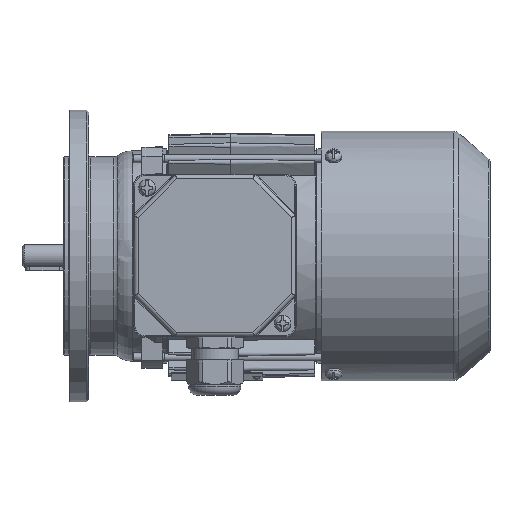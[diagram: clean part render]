
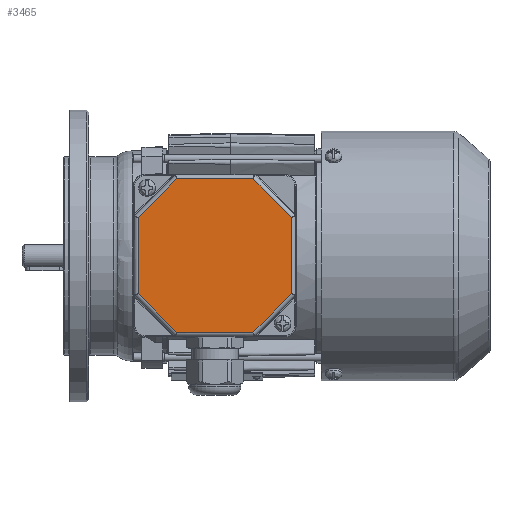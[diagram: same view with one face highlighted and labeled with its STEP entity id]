
A CAD part, top view. The second image highlights one B-rep face of the part: STEP entity #3465.
In plain terms, the highlighted planar face has unit normal (0, 0, 1).
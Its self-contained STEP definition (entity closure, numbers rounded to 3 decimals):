
#3465 = ADVANCED_FACE( '', ( #7399 ), #7400, .T. );
#7399 = FACE_OUTER_BOUND( '', #16544, .T. );
#7400 = PLANE( '', #16545 );
#16544 = EDGE_LOOP( '', ( #29645, #29646, #29647, #29648, #29649, #29650, #29651, #29652 ) );
#16545 = AXIS2_PLACEMENT_3D( '', #29653, #29654, #29655 );
#29645 = ORIENTED_EDGE( '', *, *, #41485, .T. );
#29646 = ORIENTED_EDGE( '', *, *, #41486, .T. );
#29647 = ORIENTED_EDGE( '', *, *, #41487, .T. );
#29648 = ORIENTED_EDGE( '', *, *, #39949, .T. );
#29649 = ORIENTED_EDGE( '', *, *, #41488, .T. );
#29650 = ORIENTED_EDGE( '', *, *, #41438, .T. );
#29651 = ORIENTED_EDGE( '', *, *, #41489, .T. );
#29652 = ORIENTED_EDGE( '', *, *, #41490, .T. );
#29653 = CARTESIAN_POINT( '', ( -39., 39., 12. ) );
#29654 = DIRECTION( '', ( 0., 0., 1. ) );
#29655 = DIRECTION( '', ( 1., 0., 0. ) );
#39949 = EDGE_CURVE( '', #47862, #47863, #47864, .T. );
#41438 = EDGE_CURVE( '', #45609, #50181, #50182, .T. );
#41485 = EDGE_CURVE( '', #48210, #50245, #50246, .F. );
#41486 = EDGE_CURVE( '', #50245, #45417, #50247, .T. );
#41487 = EDGE_CURVE( '', #45417, #47862, #50248, .F. );
#41488 = EDGE_CURVE( '', #47863, #45609, #50249, .F. );
#41489 = EDGE_CURVE( '', #50181, #50250, #50251, .F. );
#41490 = EDGE_CURVE( '', #50250, #48210, #50252, .T. );
#45417 = VERTEX_POINT( '', #54191 );
#45609 = VERTEX_POINT( '', #54767 );
#47862 = VERTEX_POINT( '', #59451 );
#47863 = VERTEX_POINT( '', #59452 );
#47864 = LINE( '', #59453, #59454 );
#48210 = VERTEX_POINT( '', #60431 );
#50181 = VERTEX_POINT( '', #64725 );
#50182 = LINE( '', #64726, #64727 );
#50245 = VERTEX_POINT( '', #64840 );
#50246 = LINE( '', #64841, #64842 );
#50247 = LINE( '', #64843, #64844 );
#50248 = LINE( '', #64845, #64846 );
#50249 = LINE( '', #64847, #64848 );
#50250 = VERTEX_POINT( '', #64849 );
#50251 = LINE( '', #64850, #64851 );
#50252 = LINE( '', #64852, #64853 );
#54191 = CARTESIAN_POINT( '', ( 18.255, 36.825, 12. ) );
#54767 = CARTESIAN_POINT( '', ( -36.825, -18.255, 12. ) );
#59451 = CARTESIAN_POINT( '', ( -18.255, 36.825, 12. ) );
#59452 = CARTESIAN_POINT( '', ( -36.825, 18.255, 12. ) );
#59453 = CARTESIAN_POINT( '', ( -37.401, 17.679, 12. ) );
#59454 = VECTOR( '', #73453, 1000. );
#60431 = CARTESIAN_POINT( '', ( 36.825, -18.255, 12. ) );
#64725 = CARTESIAN_POINT( '', ( -18.255, -36.825, 12. ) );
#64726 = CARTESIAN_POINT( '', ( -17.679, -37.401, 12. ) );
#64727 = VECTOR( '', #75214, 1000. );
#64840 = CARTESIAN_POINT( '', ( 36.825, 18.255, 12. ) );
#64841 = CARTESIAN_POINT( '', ( 36.825, 19.069, 12. ) );
#64842 = VECTOR( '', #75272, 1000. );
#64843 = CARTESIAN_POINT( '', ( 17.679, 37.401, 12. ) );
#64844 = VECTOR( '', #75273, 1000. );
#64845 = CARTESIAN_POINT( '', ( -19.069, 36.825, 12. ) );
#64846 = VECTOR( '', #75274, 1000. );
#64847 = CARTESIAN_POINT( '', ( -36.825, -19.069, 12. ) );
#64848 = VECTOR( '', #75275, 1000. );
#64849 = CARTESIAN_POINT( '', ( 18.255, -36.825, 12. ) );
#64850 = CARTESIAN_POINT( '', ( 19.069, -36.825, 12. ) );
#64851 = VECTOR( '', #75276, 1000. );
#64852 = CARTESIAN_POINT( '', ( 37.401, -17.679, 12. ) );
#64853 = VECTOR( '', #75277, 1000. );
#73453 = DIRECTION( '', ( -0.707, -0.707, 0. ) );
#75214 = DIRECTION( '', ( 0.707, -0.707, 0. ) );
#75272 = DIRECTION( '', ( 0., -1., 0. ) );
#75273 = DIRECTION( '', ( -0.707, 0.707, 0. ) );
#75274 = DIRECTION( '', ( 1., 0., 0. ) );
#75275 = DIRECTION( '', ( 0., 1., 0. ) );
#75276 = DIRECTION( '', ( -1., 0., 0. ) );
#75277 = DIRECTION( '', ( 0.707, 0.707, 0. ) );
